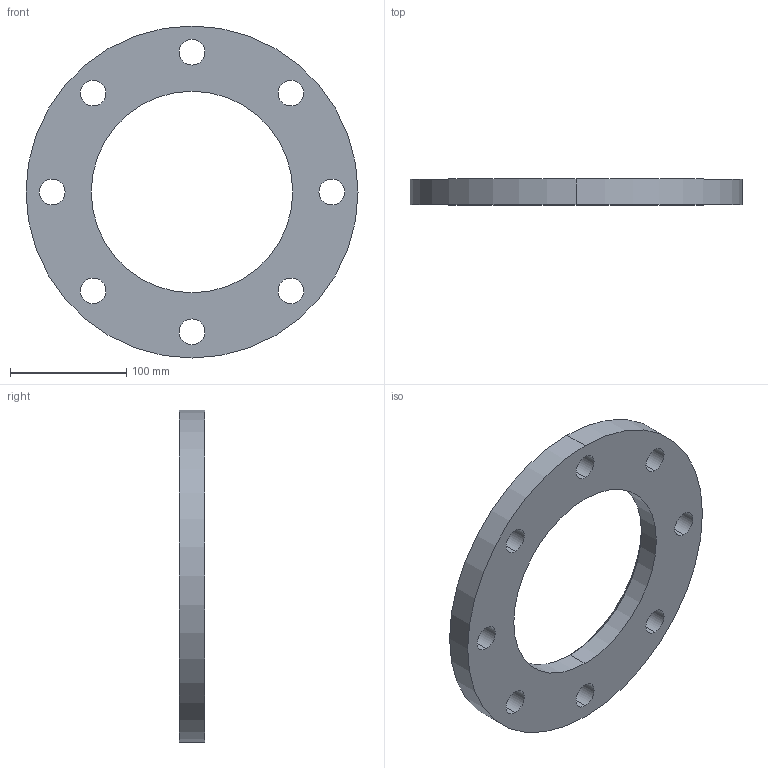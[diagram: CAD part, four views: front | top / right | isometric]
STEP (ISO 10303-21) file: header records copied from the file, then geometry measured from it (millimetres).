
FILE_DESCRIPTION (( 'STEP AP203' ), '1' );
FILE_NAME ('3D_R189_PN10_DN168.3_17669320.STEP', '2024-08-12T10:55:01', ( '' ), ( '' ), 'SwSTEP 2.0', 'SolidWorks 2024', '' );
FILE_SCHEMA (( 'CONFIG_CONTROL_DESIGN' ));
Length unit declared in the file: millimetre
Products named in the file (1): 3D_R189_PN10_DN168.3_17669320
Bounding box: 285 x 22 x 285 mm (x, y, z)
Volume: 815012.9 mm3; surface area: 117059.7 mm2
Topology: 1 solids, 1 shells, 24 faces, 64 edges, 42 vertices
Faces by surface type: cylinder 20, cone 2, plane 2
Entity records: 887 total; most frequent: DIRECTION 156, CARTESIAN_POINT 131, ORIENTED_EDGE 128, AXIS2_PLACEMENT_3D 67, EDGE_CURVE 64, CIRCLE 42, VERTEX_POINT 42, EDGE_LOOP 42
